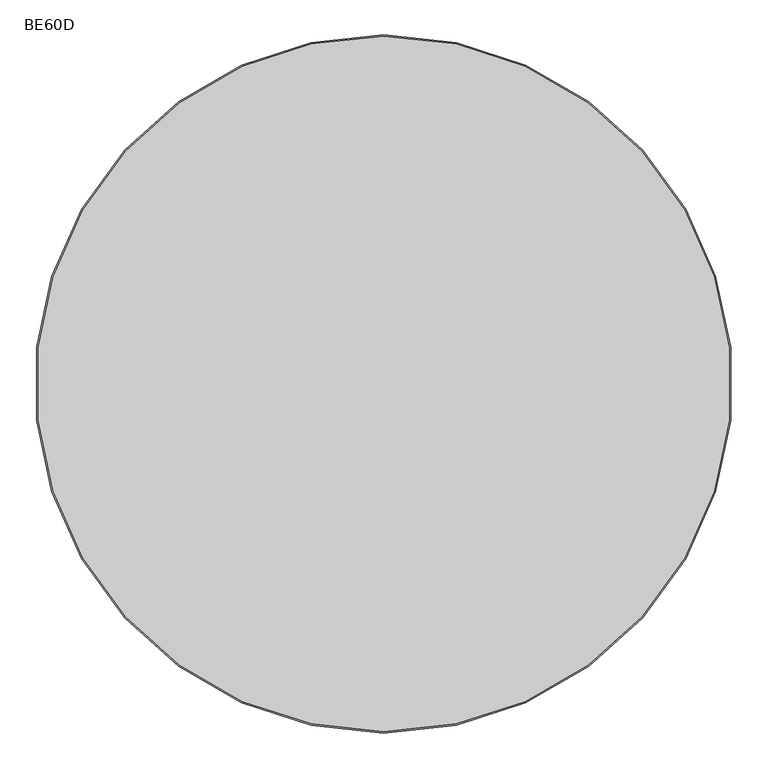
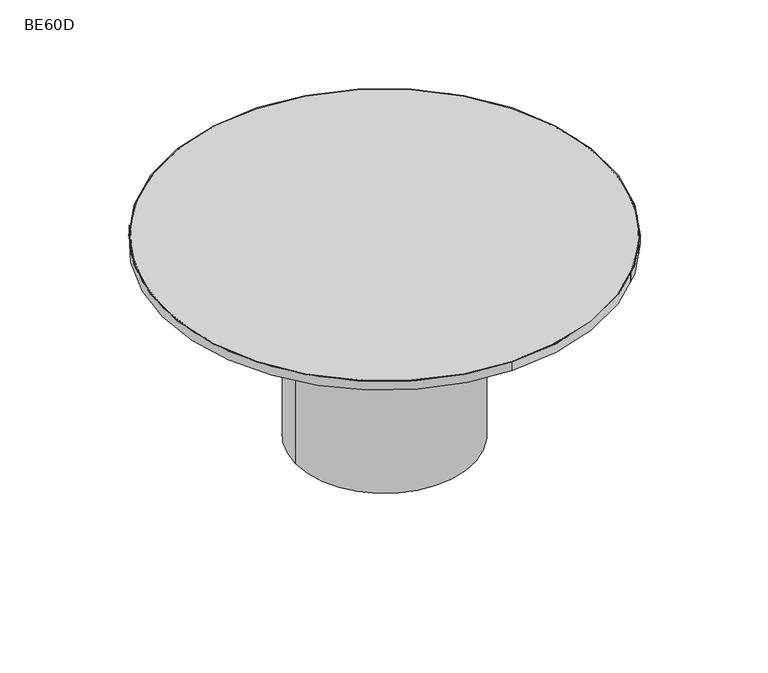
"""IFC4 building model written with IfcOpenShell, lengths in millimetres: furniture geometry, ERG-Beta-Conference_Table-Round : BE60D."""

from ifc_helpers import new_model, si_unit, point, frame, frame_2d, origin, origin_with_axes, place, context, project, spatial, circle_curve, trimmed, segment, composite_curve, outline, extrude, source, transform, mapped, element, save


def be60d_203a4da1(model_context):
    return source(origin(), model_context, "Body", "SweptSolid", [
        extrude(outline(composite_curve([segment(trimmed(circle_curve(frame_2d((361.4191899, 235.232337)), 9.525), [point((351.8941899, 235.232337))], [point((370.9441899, 235.232337))], False, "CARTESIAN"), True, "CONTINUOUS"), segment(trimmed(circle_curve(frame_2d((361.4191899, 235.232337)), 9.525), [point((370.9441899, 235.232337))], [point((351.8941899, 235.232337))], False, "CARTESIAN"), True, "CONTINUOUS")], self_intersect=False)), origin_with_axes(), (0.0, 0.0, 1.0), 9.525),
        extrude(outline(composite_curve([segment(trimmed(circle_curve(frame_2d((724.4308101, 235.232337)), 9.525), [point((714.9058101, 235.232337))], [point((733.9558101, 235.232337))], False, "CARTESIAN"), True, "CONTINUOUS"), segment(trimmed(circle_curve(frame_2d((724.4308101, 235.232337)), 9.525), [point((733.9558101, 235.232337))], [point((714.9058101, 235.232337))], False, "CARTESIAN"), True, "CONTINUOUS")], self_intersect=False)), origin_with_axes(), (0.0, 0.0, 1.0), 9.525),
        extrude(outline(composite_curve([segment(trimmed(circle_curve(frame_2d((361.4191899, -127.7792831)), 9.525), [point((351.8941899, -127.7792831))], [point((370.9441899, -127.7792831))], False, "CARTESIAN"), True, "CONTINUOUS"), segment(trimmed(circle_curve(frame_2d((361.4191899, -127.7792831)), 9.525), [point((370.9441899, -127.7792831))], [point((351.8941899, -127.7792831))], False, "CARTESIAN"), True, "CONTINUOUS")], self_intersect=False)), origin_with_axes(), (0.0, 0.0, 1.0), 9.525),
        extrude(outline(composite_curve([segment(trimmed(circle_curve(frame_2d((724.4308101, -127.7792831)), 9.525), [point((714.9058101, -127.7792831))], [point((733.9558101, -127.7792831))], False, "CARTESIAN"), True, "CONTINUOUS"), segment(trimmed(circle_curve(frame_2d((724.4308101, -127.7792831)), 9.525), [point((733.9558101, -127.7792831))], [point((714.9058101, -127.7792831))], False, "CARTESIAN"), True, "CONTINUOUS")], self_intersect=False)), origin_with_axes(), (0.0, 0.0, 1.0), 9.525),
        extrude(outline(composite_curve([segment(trimmed(circle_curve(frame_2d((542.925, 53.726527)), 304.8), [point((238.125, 53.726527))], [point((847.725, 53.726527))], False, "CARTESIAN"), True, "CONTINUOUS"), segment(trimmed(circle_curve(frame_2d((542.925, 53.726527)), 304.8), [point((847.725, 53.726527))], [point((238.125, 53.726527))], False, "CARTESIAN"), True, "CONTINUOUS")], self_intersect=False)), frame((0.0, 0.0, 9.525), z_axis=(0.0, 0.0, 1.0), x_axis=(1.0, 0.0, 0.0)), (0.0, 0.0, 1.0), 695.3249758),
        extrude(outline(composite_curve([segment(trimmed(circle_curve(frame_2d((542.925, 53.726527)), 758.825), [point((542.925, -705.098473))], [point((542.925, 812.551527))], False, "CARTESIAN"), True, "CONTINUOUS"), segment(trimmed(circle_curve(frame_2d((542.925, 53.726527)), 758.825), [point((542.925, 812.551527))], [point((542.925, -705.098473))], False, "CARTESIAN"), True, "CONTINUOUS")], self_intersect=False)), frame((0.0, 0.0, 704.85), z_axis=(0.0, 0.0, 1.0), x_axis=(1.0, 0.0, 0.0)), (0.0, 0.0, 1.0), 31.75),
        extrude(outline(composite_curve([segment(trimmed(circle_curve(frame_2d((542.925, 53.726527)), 762.0), [point((542.925, -708.273473))], [point((542.925, 815.726527))], False, "CARTESIAN"), True, "CONTINUOUS"), segment(trimmed(circle_curve(frame_2d((542.925, 53.726527)), 762.0), [point((542.925, 815.726527))], [point((542.925, -708.273473))], False, "CARTESIAN"), True, "CONTINUOUS")], self_intersect=False), holes=[composite_curve([segment(trimmed(circle_curve(frame_2d((542.925, 53.726527)), 758.825), [point((542.925, 812.551527))], [point((542.925, -705.098473))], True, "CARTESIAN"), True, "CONTINUOUS"), segment(trimmed(circle_curve(frame_2d((542.925, 53.726527)), 758.825), [point((542.925, -705.098473))], [point((542.925, 812.551527))], True, "CARTESIAN"), True, "CONTINUOUS")], self_intersect=False)]), frame((0.0, 0.0, 704.85), z_axis=(0.0, 0.0, 1.0), x_axis=(1.0, 0.0, 0.0)), (0.0, 0.0, 1.0), 31.75),
    ])


if __name__ == "__main__":
    model = new_model("IFC4")
    model_context = context("Model", 3, world=origin())
    ifc_project = project(units=[si_unit("LENGTHUNIT", "METRE", prefix="MILLI")], contexts=[model_context])
    site = spatial("IfcSite", under=ifc_project)
    building = spatial("IfcBuilding", under=site)
    placement = place(None, origin())
    be60d_shape = be60d_203a4da1(model_context)
    element("IfcFurniture", 1, ObjectType="ERG-Beta-Conference_Table-Round : BE60D", at=placement, inside=building, context=model_context, shape_type="MappedRepresentation", body=[
        mapped(be60d_shape, transform((0.0, 0.0, 0.0), x_axis=(1.0, 0.0, 0.0), y_axis=(0.0, 1.0, 0.0), z_axis=(0.0, 0.0, 1.0))),
    ])
    save(model, "model.ifc")
